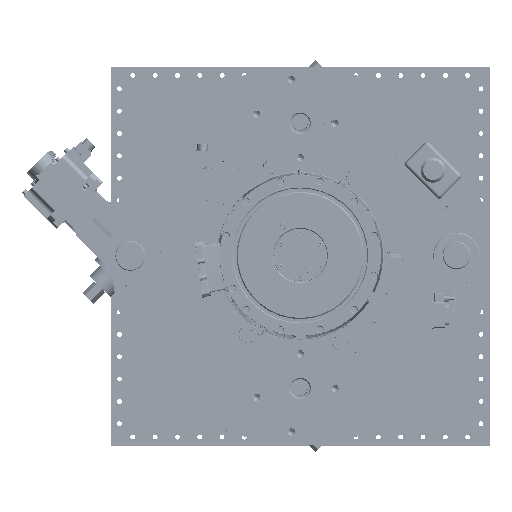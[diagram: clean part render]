
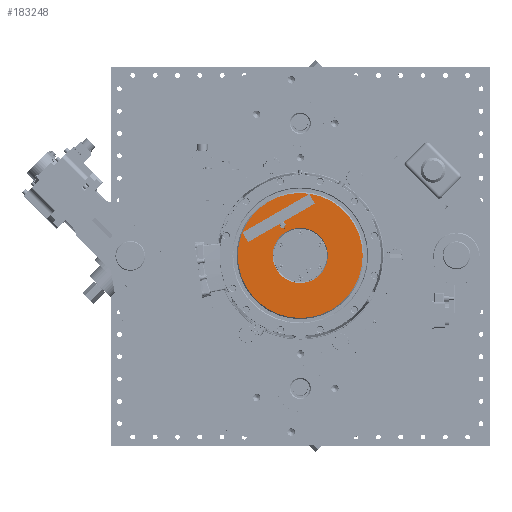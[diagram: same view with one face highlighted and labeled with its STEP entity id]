
A CAD part, top view. The second image highlights one B-rep face of the part: STEP entity #183248.
In plain terms, the highlighted planar face has unit normal (0, 0, 1).
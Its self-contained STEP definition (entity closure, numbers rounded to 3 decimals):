
#5817=PLANE('',#196818);
#13481=FACE_BOUND('',#29161,.T.);
#13482=FACE_BOUND('',#29162,.T.);
#18857=FACE_OUTER_BOUND('',#29160,.T.);
#29160=EDGE_LOOP('',(#137006));
#29161=EDGE_LOOP('',(#137007,#137008,#137009,#137010,#137011,#137012,#137013));
#29162=EDGE_LOOP('',(#137014));
#36912=CIRCLE('',#192001,8.);
#36913=CIRCLE('',#192002,8.);
#39610=CIRCLE('',#196748,167.975);
#39663=CIRCLE('',#196819,74.);
#45834=LINE('',#272477,#58062);
#45838=LINE('',#272485,#58066);
#45841=LINE('',#272491,#58069);
#45845=LINE('',#272502,#58073);
#45847=LINE('',#272505,#58075);
#58062=VECTOR('',#215306,10.);
#58066=VECTOR('',#215312,10.);
#58069=VECTOR('',#215317,10.);
#58073=VECTOR('',#215327,10.);
#58075=VECTOR('',#215329,10.);
#71860=VERTEX_POINT('',#272475);
#71861=VERTEX_POINT('',#272476);
#71864=VERTEX_POINT('',#272484);
#71866=VERTEX_POINT('',#272490);
#71870=VERTEX_POINT('',#272501);
#71871=VERTEX_POINT('',#272504);
#71874=VERTEX_POINT('',#272514);
#77044=VERTEX_POINT('',#358783);
#77095=VERTEX_POINT('',#358921);
#90680=EDGE_CURVE('',#71860,#71861,#45834,.T.);
#90684=EDGE_CURVE('',#71864,#71860,#45838,.T.);
#90687=EDGE_CURVE('',#71866,#71864,#45841,.T.);
#90692=EDGE_CURVE('',#71861,#71870,#45845,.T.);
#90694=EDGE_CURVE('',#71871,#71866,#45847,.T.);
#90700=EDGE_CURVE('',#71870,#71874,#36912,.T.);
#90701=EDGE_CURVE('',#71874,#71871,#36913,.T.);
#98740=EDGE_CURVE('',#77044,#77044,#39610,.T.);
#98808=EDGE_CURVE('',#77095,#77095,#39663,.T.);
#137006=ORIENTED_EDGE('',*,*,#98740,.T.);
#137007=ORIENTED_EDGE('',*,*,#90692,.T.);
#137008=ORIENTED_EDGE('',*,*,#90700,.T.);
#137009=ORIENTED_EDGE('',*,*,#90701,.T.);
#137010=ORIENTED_EDGE('',*,*,#90694,.T.);
#137011=ORIENTED_EDGE('',*,*,#90687,.T.);
#137012=ORIENTED_EDGE('',*,*,#90684,.T.);
#137013=ORIENTED_EDGE('',*,*,#90680,.T.);
#137014=ORIENTED_EDGE('',*,*,#98808,.F.);
#183248=ADVANCED_FACE('',(#18857,#13481,#13482),#5817,.T.);
#192001=AXIS2_PLACEMENT_3D('',#272516,#215341,#215342);
#192002=AXIS2_PLACEMENT_3D('',#272517,#215343,#215344);
#196748=AXIS2_PLACEMENT_3D('',#358785,#227427,#227428);
#196818=AXIS2_PLACEMENT_3D('',#358920,#227582,#227583);
#196819=AXIS2_PLACEMENT_3D('',#358922,#227584,#227585);
#215306=DIRECTION('',(0.5,-0.866,0.));
#215312=DIRECTION('',(0.866,0.5,0.));
#215317=DIRECTION('',(-0.5,0.866,0.));
#215327=DIRECTION('',(-0.866,-0.5,0.));
#215329=DIRECTION('',(-0.866,-0.5,0.));
#215341=DIRECTION('center_axis',(0.,0.,
-1.));
#215342=DIRECTION('ref_axis',(0.866,0.5,0.));
#215343=DIRECTION('center_axis',(0.,0.,
-1.));
#215344=DIRECTION('ref_axis',(0.866,0.5,0.));
#227427=DIRECTION('center_axis',(0.,0.,
1.));
#227428=DIRECTION('ref_axis',(-0.5,0.866,0.));
#227582=DIRECTION('center_axis',(0.,0.,
1.));
#227583=DIRECTION('ref_axis',(0.866,0.5,0.));
#227584=DIRECTION('center_axis',(0.,0.,
1.));
#227585=DIRECTION('ref_axis',(-0.5,0.866,0.));
#272475=CARTESIAN_POINT('',(24.157,165.294,1234.6));
#272476=CARTESIAN_POINT('',(39.025,139.541,1234.6));
#272477=CARTESIAN_POINT('',(33.545,149.033,1234.6));
#272484=CARTESIAN_POINT('',(-155.124,61.786,1234.6));
#272485=CARTESIAN_POINT('',(-20.689,139.402,1234.6));
#272490=CARTESIAN_POINT('',(-140.256,36.033,1234.6));
#272491=CARTESIAN_POINT('',(-153.17,58.401,1234.6));
#272501=CARTESIAN_POINT('',(-46.434,90.201,1234.6));
#272502=CARTESIAN_POINT('',(-95.461,61.895,1234.6));
#272504=CARTESIAN_POINT('',(-54.899,85.314,1234.6));
#272505=CARTESIAN_POINT('',(-95.461,61.895,1234.6));
#272514=CARTESIAN_POINT('',(-54.428,78.272,1234.6));
#272516=CARTESIAN_POINT('Origin',(-47.5,82.272,1234.6));
#272517=CARTESIAN_POINT('Origin',(-47.5,82.272,1234.6));
#358783=CARTESIAN_POINT('',(83.987,-145.471,1234.6));
#358785=CARTESIAN_POINT('Origin',(0.,0.,
1234.6));
#358920=CARTESIAN_POINT('Origin',(-61.627,106.741,1234.6));
#358921=CARTESIAN_POINT('',(37.,-64.086,1234.6));
#358922=CARTESIAN_POINT('Origin',(0.,0.,
1234.6));
